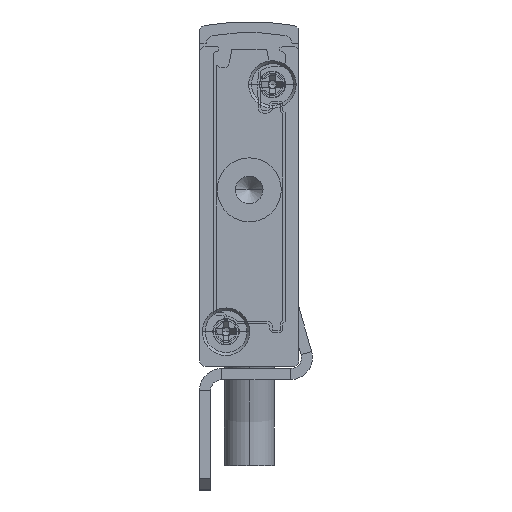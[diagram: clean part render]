
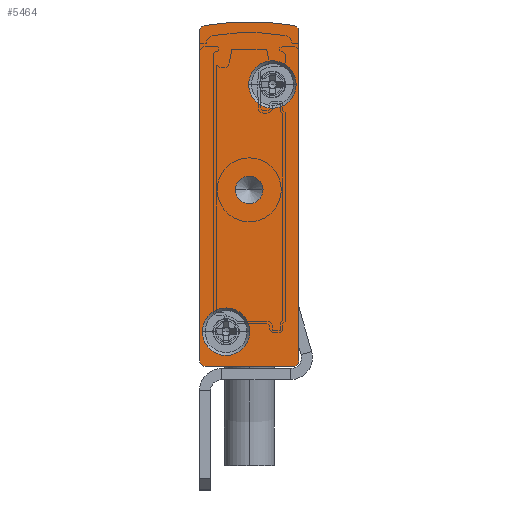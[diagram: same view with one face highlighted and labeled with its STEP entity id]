
A CAD part, front view. The second image highlights one B-rep face of the part: STEP entity #5464.
In plain terms, the highlighted planar face has unit normal (0, -1, 0).
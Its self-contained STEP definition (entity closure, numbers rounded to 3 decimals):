
#31 = DIRECTION ( 'NONE',  ( 0., 1., 0. ) ) ;
#164 = DIRECTION ( 'NONE',  ( -1., 0., 0. ) ) ;
#301 = CARTESIAN_POINT ( 'NONE',  ( -8.5, -2.5, 30.402 ) ) ;
#1127 = CARTESIAN_POINT ( 'NONE',  ( -0.25, -2.5, 25.55 ) ) ;
#1259 = VERTEX_POINT ( 'NONE', #1127 ) ;
#1295 = CARTESIAN_POINT ( 'NONE',  ( -8.5, -2.5, 0. ) ) ;
#1564 = CARTESIAN_POINT ( 'NONE',  ( -0.5, -2.5, 0. ) ) ;
#1625 = AXIS2_PLACEMENT_3D ( 'NONE', #19943, #8939, #21873 ) ;
#1959 = ORIENTED_EDGE ( 'NONE', *, *, #2737, .F. ) ;
#1993 = FACE_BOUND ( 'NONE', #9987, .T. ) ;
#2032 = CARTESIAN_POINT ( 'NONE',  ( 0., -2.5, 0.5 ) ) ;
#2125 = ORIENTED_EDGE ( 'NONE', *, *, #20753, .T. ) ;
#2141 = EDGE_CURVE ( 'NONE', #1259, #11225, #12114, .T. ) ;
#2219 = AXIS2_PLACEMENT_3D ( 'NONE', #4990, #3254, #5161 ) ;
#2684 = DIRECTION ( 'NONE',  ( 0., 1., 0. ) ) ;
#2731 = AXIS2_PLACEMENT_3D ( 'NONE', #11764, #17001, #19234 ) ;
#2737 = EDGE_CURVE ( 'NONE', #12571, #3670, #4195, .T. ) ;
#2896 = EDGE_CURVE ( 'NONE', #7063, #23402, #6597, .T. ) ;
#3254 = DIRECTION ( 'NONE',  ( 0., 1., 0. ) ) ;
#3558 = CIRCLE ( 'NONE', #15329, 2.15 ) ;
#3670 = VERTEX_POINT ( 'NONE', #12967 ) ;
#3774 = DIRECTION ( 'NONE',  ( 0., 0., 1. ) ) ;
#3841 = CARTESIAN_POINT ( 'NONE',  ( -9., -2.5, 30.402 ) ) ;
#3969 = ORIENTED_EDGE ( 'NONE', *, *, #13391, .F. ) ;
#4187 = CARTESIAN_POINT ( 'NONE',  ( -4.55, -2.5, 25.55 ) ) ;
#4195 = LINE ( 'NONE', #3841, #13452 ) ;
#4447 = AXIS2_PLACEMENT_3D ( 'NONE', #10094, #2684, #4583 ) ;
#4583 = DIRECTION ( 'NONE',  ( -1., 0., 0. ) ) ;
#4625 = FACE_BOUND ( 'NONE', #22876, .T. ) ;
#4801 = DIRECTION ( 'NONE',  ( 0., 1., 0. ) ) ;
#4813 = VERTEX_POINT ( 'NONE', #13808 ) ;
#4990 = CARTESIAN_POINT ( 'NONE',  ( -0.5, -2.5, 0.5 ) ) ;
#5161 = DIRECTION ( 'NONE',  ( -1., 0., 0. ) ) ;
#5308 = CIRCLE ( 'NONE', #17631, 0.5 ) ;
#5412 = ORIENTED_EDGE ( 'NONE', *, *, #20975, .F. ) ;
#5464 = ADVANCED_FACE ( 'NONE', ( #6373, #4625, #23768, #1993 ), #10056, .F. ) ;
#5621 = CIRCLE ( 'NONE', #14420, 2.15 ) ;
#5624 = EDGE_CURVE ( 'NONE', #4813, #7478, #3558, .T. ) ;
#5629 = AXIS2_PLACEMENT_3D ( 'NONE', #6358, #4801, #10157 ) ;
#5763 = LINE ( 'NONE', #17334, #23752 ) ;
#5977 = CIRCLE ( 'NONE', #1625, 0.5 ) ;
#6301 = ORIENTED_EDGE ( 'NONE', *, *, #2896, .T. ) ;
#6358 = CARTESIAN_POINT ( 'NONE',  ( -4.5, -2.5, 16. ) ) ;
#6373 = FACE_BOUND ( 'NONE', #18446, .T. ) ;
#6597 = CIRCLE ( 'NONE', #5629, 1.25 ) ;
#6781 = EDGE_CURVE ( 'NONE', #17521, #8943, #5763, .T. ) ;
#7063 = VERTEX_POINT ( 'NONE', #21149 ) ;
#7478 = VERTEX_POINT ( 'NONE', #13749 ) ;
#7686 = VECTOR ( 'NONE', #22301, 1000. ) ;
#7753 = ORIENTED_EDGE ( 'NONE', *, *, #6781, .F. ) ;
#7769 = VERTEX_POINT ( 'NONE', #1295 ) ;
#7840 = DIRECTION ( 'NONE',  ( 1., 0., 0. ) ) ;
#7919 = CARTESIAN_POINT ( 'NONE',  ( -9., -2.5, 0.5 ) ) ;
#8112 = DIRECTION ( 'NONE',  ( 0., 1., 0. ) ) ;
#8266 = LINE ( 'NONE', #20474, #7686 ) ;
#8273 = EDGE_LOOP ( 'NONE', ( #18607, #1959, #3969, #5412, #14348, #7753, #20910, #9133 ) ) ;
#8427 = AXIS2_PLACEMENT_3D ( 'NONE', #11121, #18455, #20154 ) ;
#8715 = CARTESIAN_POINT ( 'NONE',  ( -8.592, -2.5, 30.893 ) ) ;
#8832 = ORIENTED_EDGE ( 'NONE', *, *, #16417, .F. ) ;
#8939 = DIRECTION ( 'NONE',  ( 0., 1., 0. ) ) ;
#8943 = VERTEX_POINT ( 'NONE', #2032 ) ;
#9133 = ORIENTED_EDGE ( 'NONE', *, *, #24031, .F. ) ;
#9574 = DIRECTION ( 'NONE',  ( 0., 1., 0. ) ) ;
#9769 = CARTESIAN_POINT ( 'NONE',  ( -3.25, -2.5, 16. ) ) ;
#9777 = ORIENTED_EDGE ( 'NONE', *, *, #5624, .F. ) ;
#9841 = VERTEX_POINT ( 'NONE', #14136 ) ;
#9987 = EDGE_LOOP ( 'NONE', ( #6301, #2125 ) ) ;
#10056 = PLANE ( 'NONE',  #19351 ) ;
#10094 = CARTESIAN_POINT ( 'NONE',  ( -4.5, -2.5, 16. ) ) ;
#10157 = DIRECTION ( 'NONE',  ( -1., 0., 0. ) ) ;
#10324 = DIRECTION ( 'NONE',  ( 1., 0., 0. ) ) ;
#10538 = CIRCLE ( 'NONE', #2731, 2.15 ) ;
#10761 = EDGE_CURVE ( 'NONE', #9841, #17521, #18568, .T. ) ;
#11015 = CARTESIAN_POINT ( 'NONE',  ( 0., -2.5, 30.402 ) ) ;
#11121 = CARTESIAN_POINT ( 'NONE',  ( -2.4, -2.5, 25.55 ) ) ;
#11128 = CARTESIAN_POINT ( 'NONE',  ( -0.5, -2.5, 30.402 ) ) ;
#11225 = VERTEX_POINT ( 'NONE', #4187 ) ;
#11284 = CARTESIAN_POINT ( 'NONE',  ( -4.5, -2.5, 7.592 ) ) ;
#11746 = DIRECTION ( 'NONE',  ( -1., 0., 0. ) ) ;
#11764 = CARTESIAN_POINT ( 'NONE',  ( -6.6, -2.5, 3.15 ) ) ;
#11928 = EDGE_CURVE ( 'NONE', #8943, #16023, #23546, .T. ) ;
#12114 = CIRCLE ( 'NONE', #8427, 2.15 ) ;
#12571 = VERTEX_POINT ( 'NONE', #7919 ) ;
#12967 = CARTESIAN_POINT ( 'NONE',  ( -9., -2.5, 30.402 ) ) ;
#13342 = DIRECTION ( 'NONE',  ( 0., -1., 0. ) ) ;
#13391 = EDGE_CURVE ( 'NONE', #7769, #12571, #5977, .T. ) ;
#13452 = VECTOR ( 'NONE', #3774, 1000. ) ;
#13627 = DIRECTION ( 'NONE',  ( 0., 0., -1. ) ) ;
#13749 = CARTESIAN_POINT ( 'NONE',  ( -8.75, -2.5, 3.15 ) ) ;
#13808 = CARTESIAN_POINT ( 'NONE',  ( -4.45, -2.5, 3.15 ) ) ;
#14136 = CARTESIAN_POINT ( 'NONE',  ( -0.408, -2.5, 30.893 ) ) ;
#14348 = ORIENTED_EDGE ( 'NONE', *, *, #11928, .F. ) ;
#14420 = AXIS2_PLACEMENT_3D ( 'NONE', #22912, #13342, #7840 ) ;
#14627 = AXIS2_PLACEMENT_3D ( 'NONE', #11284, #23916, #164 ) ;
#15329 = AXIS2_PLACEMENT_3D ( 'NONE', #16000, #17661, #10324 ) ;
#15712 = ORIENTED_EDGE ( 'NONE', *, *, #21983, .F. ) ;
#16000 = CARTESIAN_POINT ( 'NONE',  ( -6.6, -2.5, 3.15 ) ) ;
#16023 = VERTEX_POINT ( 'NONE', #1564 ) ;
#16417 = EDGE_CURVE ( 'NONE', #7478, #4813, #10538, .T. ) ;
#17001 = DIRECTION ( 'NONE',  ( 0., -1., 0. ) ) ;
#17334 = CARTESIAN_POINT ( 'NONE',  ( 0., -2.5, 30.402 ) ) ;
#17521 = VERTEX_POINT ( 'NONE', #11015 ) ;
#17631 = AXIS2_PLACEMENT_3D ( 'NONE', #301, #9574, #18649 ) ;
#17661 = DIRECTION ( 'NONE',  ( 0., -1., 0. ) ) ;
#18446 = EDGE_LOOP ( 'NONE', ( #22834, #15712 ) ) ;
#18455 = DIRECTION ( 'NONE',  ( 0., -1., 0. ) ) ;
#18568 = CIRCLE ( 'NONE', #21430, 0.5 ) ;
#18607 = ORIENTED_EDGE ( 'NONE', *, *, #21358, .F. ) ;
#18649 = DIRECTION ( 'NONE',  ( -1., 0., 0. ) ) ;
#18924 = CIRCLE ( 'NONE', #14627, 23.658 ) ;
#19131 = CARTESIAN_POINT ( 'NONE',  ( -8.5, -2.5, 30.402 ) ) ;
#19234 = DIRECTION ( 'NONE',  ( 1., 0., 0. ) ) ;
#19351 = AXIS2_PLACEMENT_3D ( 'NONE', #19131, #8112, #11746 ) ;
#19943 = CARTESIAN_POINT ( 'NONE',  ( -8.5, -2.5, 0.5 ) ) ;
#19988 = VERTEX_POINT ( 'NONE', #8715 ) ;
#20154 = DIRECTION ( 'NONE',  ( 1., 0., 0. ) ) ;
#20474 = CARTESIAN_POINT ( 'NONE',  ( -8.5, -2.5, 0. ) ) ;
#20508 = DIRECTION ( 'NONE',  ( -1., 0., 0. ) ) ;
#20753 = EDGE_CURVE ( 'NONE', #23402, #7063, #23665, .T. ) ;
#20910 = ORIENTED_EDGE ( 'NONE', *, *, #10761, .F. ) ;
#20975 = EDGE_CURVE ( 'NONE', #16023, #7769, #8266, .T. ) ;
#21149 = CARTESIAN_POINT ( 'NONE',  ( -5.75, -2.5, 16. ) ) ;
#21358 = EDGE_CURVE ( 'NONE', #3670, #19988, #5308, .T. ) ;
#21430 = AXIS2_PLACEMENT_3D ( 'NONE', #11128, #31, #20508 ) ;
#21873 = DIRECTION ( 'NONE',  ( -1., 0., 0. ) ) ;
#21983 = EDGE_CURVE ( 'NONE', #11225, #1259, #5621, .T. ) ;
#22301 = DIRECTION ( 'NONE',  ( -1., 0., 0. ) ) ;
#22834 = ORIENTED_EDGE ( 'NONE', *, *, #2141, .F. ) ;
#22876 = EDGE_LOOP ( 'NONE', ( #9777, #8832 ) ) ;
#22912 = CARTESIAN_POINT ( 'NONE',  ( -2.4, -2.5, 25.55 ) ) ;
#23402 = VERTEX_POINT ( 'NONE', #9769 ) ;
#23546 = CIRCLE ( 'NONE', #2219, 0.5 ) ;
#23665 = CIRCLE ( 'NONE', #4447, 1.25 ) ;
#23752 = VECTOR ( 'NONE', #13627, 1000. ) ;
#23768 = FACE_OUTER_BOUND ( 'NONE', #8273, .T. ) ;
#23916 = DIRECTION ( 'NONE',  ( 0., 1., 0. ) ) ;
#24031 = EDGE_CURVE ( 'NONE', #19988, #9841, #18924, .T. ) ;
